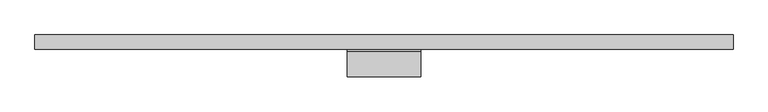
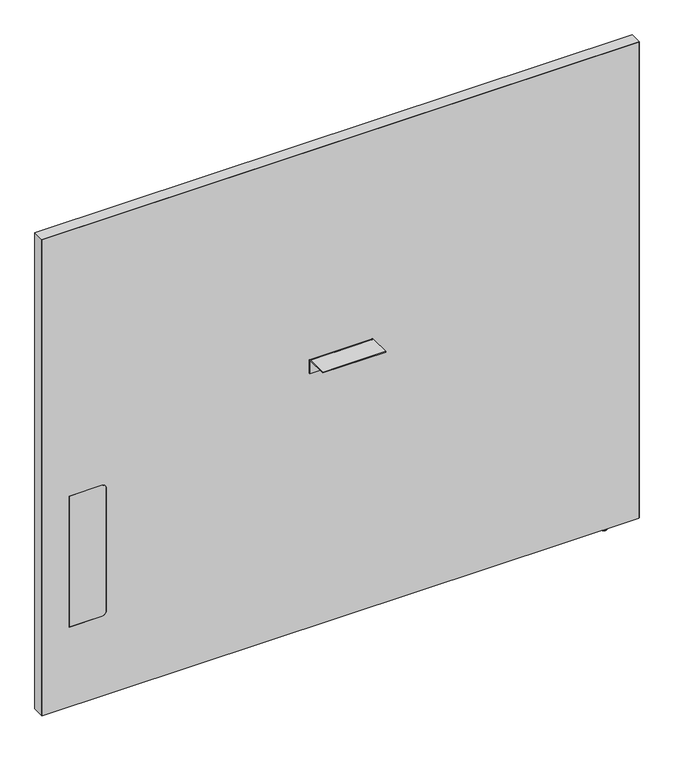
"""IFC4 building model written with IfcOpenShell, lengths in millimetres: furniture geometry, Steelcase - Answer Solution - Boundary Screen - Straight - Single Sided : 48H x 57W."""

from ifc_helpers import new_model, si_unit, point, frame, frame_2d, origin, place, context, project, spatial, polyline, circle_curve, ellipse_curve, trimmed, segment, composite_curve, outline, extrude, source, transform, mapped, element, save
from ifc_brep_helpers import plane_surface, cylinder_surface, revolved_surface, advanced_brep


def furniture_2796b41d(model_context):
    return source(origin(), model_context, "Body", "SolidModel", [
        extrude(outline(composite_curve([segment(polyline([(-86.8398151, 696.4680019), (-86.8398151, 698.5), (-34.9450855, 698.5)]), True, "CONTINUOUS"), segment(trimmed(circle_curve(frame_2d((-34.9450855, 693.2447477)), 5.2552523), [point((-34.9450855, 698.5))], [point((-29.6898332, 693.2447477))], False, "CARTESIAN"), True, "CONTINUOUS"), segment(polyline([(-29.6898332, 693.2447477), (-29.6898332, 660.4), (-31.7218162, 660.4), (-31.7218162, 693.0058743)]), True, "CONTINUOUS"), segment(trimmed(circle_curve(frame_2d((-35.1839438, 693.0058743)), 3.4621276), [point((-31.7218162, 693.0058743))], [point((-35.1839438, 696.4680019))], True, "CARTESIAN"), True, "CONTINUOUS"), segment(polyline([(-35.1839438, 696.4680019), (-86.8398151, 696.4680019)]), True, "CONTINUOUS")], self_intersect=False)), frame((1.2191407, 0.0, 0.0), z_axis=(1.0, 0.0, 0.0), x_axis=(0.0, 1.0, 0.0)), (0.0, 0.0, 1.0), 152.4000969),
        advanced_brep(
        [(724.1286488, -23.7588726, 9.9059849), (724.1286488, -5.9309607, 9.9059849), (724.1286488, -14.8449166, 9.9059849), (724.1286488, -23.7588726, 2.9673238), (724.1286488, -5.9309607, 2.9673238), (724.1286488, -22.7915354, 2.9673238), (724.1286488, -6.8982978, 2.9673238), (724.1286488, -22.7915354, 1.6569081), (724.1286488, -6.8982978, 1.6569081), (724.1286488, -21.1346274, 0.0), (724.1286488, -8.5552059, 0.0), (724.1286488, -14.8449166, 0.0)],
        [
            (0, 1, circle_curve(frame((724.1286488, -14.8449166, 9.9059849), z_axis=(0.0, 0.0, 1.0), x_axis=(0.0, 1.0, 0.0)), 8.913956)),
            (1, 2),
            (2, 0),
            (1, 0, circle_curve(frame((724.1286488, -14.8449166, 9.9059849), z_axis=(0.0, 0.0, 1.0), x_axis=(0.0, 1.0, 0.0)), 8.913956)),
            (3, 4, circle_curve(frame((724.1286488, -14.8449166, 2.9673238), z_axis=(0.0, 0.0, 1.0), x_axis=(0.0, 1.0, 0.0)), 8.913956)),
            (4, 1),
            (0, 3),
            (4, 3, circle_curve(frame((724.1286488, -14.8449166, 2.9673238), z_axis=(0.0, 0.0, 1.0), x_axis=(0.0, 1.0, 0.0)), 8.913956)),
            (5, 6, circle_curve(frame((724.1286488, -14.8449166, 2.9673238), z_axis=(0.0, 0.0, 1.0), x_axis=(0.0, 1.0, 0.0)), 7.9466188)),
            (6, 4),
            (3, 5),
            (6, 5, circle_curve(frame((724.1286488, -14.8449166, 2.9673238), z_axis=(0.0, 0.0, 1.0), x_axis=(0.0, 1.0, 0.0)), 7.9466188)),
            (7, 8, circle_curve(frame((724.1286488, -14.8449166, 1.6569081), z_axis=(0.0, 0.0, 1.0), x_axis=(0.0, 1.0, 0.0)), 7.9466188)),
            (8, 6),
            (5, 7),
            (8, 7, circle_curve(frame((724.1286488, -14.8449166, 1.6569081), z_axis=(0.0, 0.0, 1.0), x_axis=(0.0, 1.0, 0.0)), 7.9466188)),
            (9, 10, circle_curve(frame((724.1286488, -14.8449166, 0.0), z_axis=(0.0, 0.0, 1.0), x_axis=(0.0, 1.0, 0.0)), 6.2897107)),
            (10, 8, circle_curve(frame((724.1286488, -8.5552059, 1.6569081), z_axis=(1.0, 0.0, 0.0), x_axis=(0.0, 1.0, 0.0)), 1.6569081)),
            (7, 9, circle_curve(frame((724.1286488, -21.1346274, 1.6569081), z_axis=(1.0, 0.0, 0.0), x_axis=(0.0, -1.0, 0.0)), 1.6569081)),
            (10, 9, circle_curve(frame((724.1286488, -14.8449166, 0.0), z_axis=(0.0, 0.0, 1.0), x_axis=(0.0, 1.0, 0.0)), 6.2897107)),
            (11, 10),
            (9, 11),
        ],
        [
            plane_surface(frame((724.1286488, -14.8449166, 9.9059849), z_axis=(0.0, 0.0, 1.0), x_axis=(0.0, 1.0, 0.0))),
            cylinder_surface(frame((724.1286488, -14.8449166, 9.9059849), z_axis=(0.0, 0.0, -1.0), x_axis=(0.0, 1.0, 0.0)), 8.913956),
            plane_surface(frame((724.1286488, -14.8449166, 2.9673238), z_axis=(0.0, 0.0, -1.0), x_axis=(0.0, 1.0, 0.0))),
            cylinder_surface(frame((724.1286488, -14.8449166, 9.9059849), z_axis=(0.0, 0.0, -1.0), x_axis=(0.0, 1.0, 0.0)), 7.9466188),
            revolved_surface(trimmed(ellipse_curve(frame((724.1286488, -8.5552059, 1.6569081), z_axis=(-1.0, 0.0, 0.0), x_axis=(0.0, 1.0, 0.0)), 1.6569081, 1.6569081), [point((724.1286488, -6.8982978, 1.6569081))], [point((724.1286488, -8.5552059, 0.0))], True, "CARTESIAN"), (724.1286488, -14.8449166, 9.9059849), (0.0, 0.0, -1.0)),
            plane_surface(frame((724.1286488, -14.8449166, 0.0), z_axis=(0.0, 0.0, -1.0), x_axis=(0.0, 1.0, 0.0))),
        ],
        [
            (0, [[1, 2, 3]]),
            (0, [[4, -3, -2]]),
            (1, [[5, 6, -1, 7]]),
            (1, [[8, -7, -4, -6]]),
            (2, [[9, 10, -5, 11]]),
            (2, [[12, -11, -8, -10]]),
            (3, [[13, 14, -9, 15]]),
            (3, [[16, -15, -12, -14]]),
            (4, [[17, 18, -13, 19]]),
            (4, [[20, -19, -16, -18]]),
            (5, [[21, -17, 22]]),
            (5, [[-22, -20, -21]]),
        ],
    ),
        advanced_brep(
        [(800.2780168, 0.0, 1229.142118), (800.2780168, 0.0, 9.9059849), (-645.4902221, 0.0, 9.9059849), (-645.4902221, 0.0, 1229.142118), (800.2780168, -29.6898332, 1229.142118), (-645.4902221, -29.6898332, 1229.142118), (-645.4902221, -29.6898332, 9.9059849), (800.2780168, -29.6898332, 9.9059849), (-501.1463873, -29.6898332, 549.6162029), (-490.9863873, -29.6898332, 539.4562029), (-490.9863873, -29.6898332, 223.9362137), (-501.1463873, -29.6898332, 213.7762137), (-580.800285, -29.6898332, 213.7762137), (-580.800285, -29.6898332, 549.6162029), (-580.800285, -29.0550397, 549.6162029), (-501.1463873, -29.0550397, 549.6162029), (-580.800285, -29.0550397, 213.7762137), (-501.1463873, -29.0550397, 213.7762137), (-490.9863873, -29.0550397, 223.9362137), (-490.9863873, -29.0550397, 539.4562029)],
        [
            (0, 1),
            (1, 2),
            (2, 3),
            (3, 0),
            (4, 5),
            (5, 6),
            (6, 7),
            (7, 4),
            (8, 9, circle_curve(frame((-501.1463873, -29.6898332, 539.4562029), z_axis=(0.0, 1.0, 0.0), x_axis=(0.0, 0.0, 1.0)), 10.16)),
            (9, 10),
            (10, 11, circle_curve(frame((-501.1463873, -29.6898332, 223.9362137), z_axis=(0.0, 1.0, 0.0), x_axis=(0.0, 0.0, 1.0)), 10.16)),
            (11, 12),
            (12, 13),
            (13, 8),
            (0, 4),
            (7, 1),
            (6, 2),
            (5, 3),
            (13, 14),
            (14, 15),
            (15, 8),
            (12, 16),
            (16, 14),
            (11, 17),
            (17, 16),
            (10, 18),
            (18, 17, circle_curve(frame((-501.1463873, -29.0550397, 223.9362137), z_axis=(0.0, 1.0, 0.0), x_axis=(0.0, 0.0, 1.0)), 10.16)),
            (9, 19),
            (19, 18),
            (15, 19, circle_curve(frame((-501.1463873, -29.0550397, 539.4562029), z_axis=(0.0, 1.0, 0.0), x_axis=(0.0, 0.0, 1.0)), 10.16)),
        ],
        [
            plane_surface(frame((800.2780168, 0.0, 1229.142118), z_axis=(0.0, 1.0, 0.0), x_axis=(0.0, 0.0, -1.0))),
            plane_surface(frame((800.2780168, -29.6898332, 1229.142118), z_axis=(0.0, -1.0, 0.0), x_axis=(0.0, 0.0, 1.0))),
            plane_surface(frame((800.2780168, 0.0, 1229.142118), z_axis=(1.0, 0.0, 0.0), x_axis=(0.0, -1.0, 0.0))),
            plane_surface(frame((800.2780168, 0.0, 9.9059849), z_axis=(0.0, 0.0, -1.0), x_axis=(0.0, -1.0, 0.0))),
            plane_surface(frame((-645.4902221, 0.0, 9.9059849), z_axis=(-1.0, 0.0, 0.0), x_axis=(0.0, -1.0, 0.0))),
            plane_surface(frame((-645.4902221, 0.0, 1229.142118), z_axis=(0.0, 0.0, 1.0), x_axis=(0.0, -1.0, 0.0))),
            plane_surface(frame((-501.1463873, 0.0, 549.6162029), z_axis=(0.0, 0.0, -1.0), x_axis=(0.0, -1.0, 0.0))),
            plane_surface(frame((-580.800285, 0.0, 549.6162029), z_axis=(1.0, 0.0, 0.0), x_axis=(0.0, -1.0, 0.0))),
            plane_surface(frame((-580.800285, 0.0, 213.7762137), z_axis=(0.0, 0.0, 1.0), x_axis=(0.0, -1.0, 0.0))),
            revolved_surface(polyline([(-501.1463873, -29.6898332, 234.0962137), (-501.1463873, -29.0550397, 234.0962137)]), (-501.1463873, -29.6898332, 223.9362137), (0.0, -1.0, 0.0)),
            plane_surface(frame((-490.9863873, 0.0, 223.9362137), z_axis=(-1.0, 0.0, 0.0), x_axis=(0.0, -1.0, 0.0))),
            revolved_surface(polyline([(-501.1463873, -29.6898332, 549.6162029), (-501.1463873, -29.0550397, 549.6162029)]), (-501.1463873, -29.6898332, 539.4562029), (0.0, -1.0, 0.0)),
            plane_surface(frame((-490.9863873, -29.0550397, 629.172953), z_axis=(0.0, -1.0, 0.0), x_axis=(0.0, 0.0, 1.0))),
        ],
        [
            (0, [[1, 2, 3, 4]]),
            (1, [[5, 6, 7, 8], [9, 10, 11, 12, 13, 14]]),
            (2, [[-1, 15, -8, 16]]),
            (3, [[-2, -16, -7, 17]]),
            (4, [[-3, -17, -6, 18]]),
            (5, [[-4, -18, -5, -15]]),
            (6, [[-14, 19, 20, 21]]),
            (7, [[-13, 22, 23, -19]]),
            (8, [[-12, 24, 25, -22]]),
            (9, [[-11, 26, 27, -24]]),
            (10, [[-10, 28, 29, -26]]),
            (11, [[-9, -21, 30, -28]]),
            (12, [[-20, -23, -25, -27, -29, -30]]),
        ],
    ),
        extrude(outline(composite_curve([segment(polyline([(549.6162029, -501.1463873), (549.6162029, -580.800285), (213.7762137, -580.800285), (213.7762137, -501.1463873)]), True, "CONTINUOUS"), segment(trimmed(circle_curve(frame_2d((223.9362137, -501.1463873)), 10.16), [point((213.7762137, -501.1463873))], [point((223.9362137, -490.9863873))], False, "CARTESIAN"), True, "CONTINUOUS"), segment(polyline([(223.9362137, -490.9863873), (539.4562029, -490.9863873)]), True, "CONTINUOUS"), segment(trimmed(circle_curve(frame_2d((539.4562029, -501.1463873)), 10.16), [point((539.4562029, -490.9863873))], [point((549.6162029, -501.1463873))], False, "CARTESIAN"), True, "CONTINUOUS")], self_intersect=False)), frame((0.0, -29.6898332, 0.0), z_axis=(0.0, 1.0, 0.0), x_axis=(0.0, 0.0, 1.0)), (0.0, 0.0, 1.0), 0.6347935),
        extrude(outline(polyline([(1230.122, 801.3191891), (1230.122, -646.4808109), (9.9059849, -646.4808109), (9.9059849, -645.4902221), (1229.142118, -645.4902221), (1229.142118, 800.2780168), (9.9059849, 800.2780168), (9.9059849, 801.3191891), (1230.122, 801.3191891)])), frame((0.0, -29.6898332, 0.0), z_axis=(0.0, 1.0, 0.0), x_axis=(0.0, 0.0, 1.0)), (0.0, 0.0, 1.0), 29.6898332),
    ])


if __name__ == "__main__":
    model = new_model("IFC4")
    model_context = context("Model", 3, world=origin())
    ifc_project = project(units=[si_unit("LENGTHUNIT", "METRE", prefix="MILLI")], contexts=[model_context])
    site = spatial("IfcSite", under=ifc_project)
    building = spatial("IfcBuilding", under=site)
    placement = place(None, origin())
    furniture_shape = furniture_2796b41d(model_context)
    element("IfcFurniture", 1, ObjectType="Steelcase - Answer Solution - Boundary Screen - Straight - Single Sided : 48H x 57W", at=placement, inside=building, context=model_context, shape_type="MappedRepresentation", body=[
        mapped(furniture_shape, transform((0.0, 0.0, 0.0), x_axis=(1.0, 0.0, 0.0), y_axis=(0.0, 1.0, 0.0), z_axis=(0.0, 0.0, 1.0))),
    ])
    save(model, "model.ifc")
